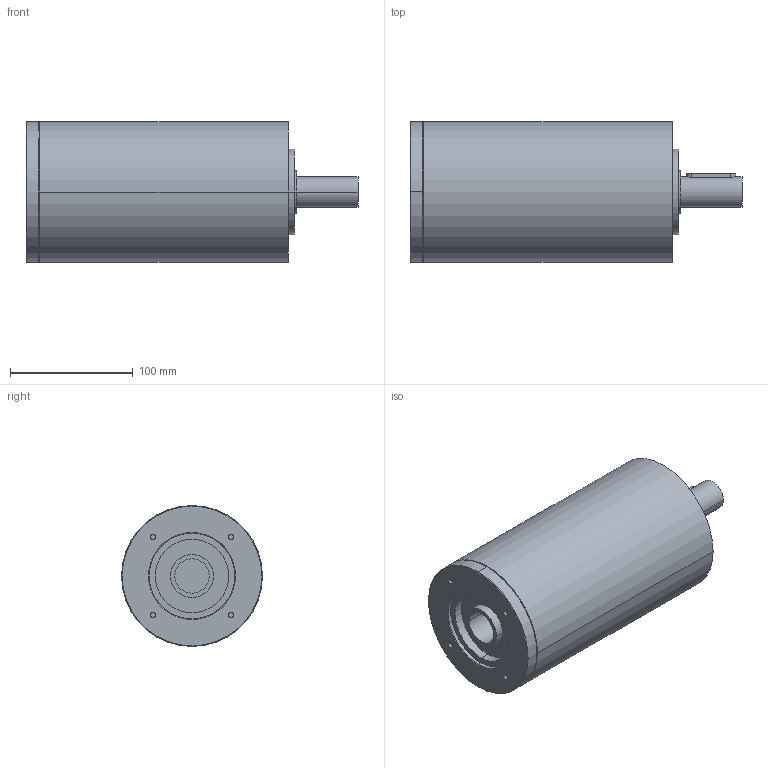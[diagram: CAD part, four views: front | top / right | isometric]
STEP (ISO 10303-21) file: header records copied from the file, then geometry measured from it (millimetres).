
FILE_DESCRIPTION(('CoCreate Modeling STEP Export'),'2;1');
FILE_NAME('GPR125_ig-48-64-80-100-140-196-245-343_25_B14_28_P15.stp','2014-08-26T14:22:55',(''),(''),'CoCreate Modeling STEP processor for AP214 (Solid Model)','CoCreate Modeling 16.00C 25-Feb-2009 (C) Parametric Technology GmbH','');
FILE_SCHEMA(('AUTOMOTIVE_DESIGN { 1 0 10303 214 1 1 1 1 }'));
Length unit declared in the file: millimetre
Products named in the file (2): GPR125_ig-48-64-80-100-140-196-245-343_25_B14_28_P15
Assembly tree (1 placements, depth 2):
  GPR125_ig-48-64-80-100-140-196-245-343_25_B14_28_P15
    GPR125_ig-48-64-80-100-140-196-245-343_25_B14_28_P15
Bounding box: 271 x 115 x 115 mm (x, y, z)
Volume: 2201146.6 mm3; surface area: 114771.7 mm2
Topology: 1 solids, 1 shells, 69 faces, 180 edges, 128 vertices
Faces by surface type: cylinder 38, plane 21, cone 10
Entity records: 1790 total; most frequent: ORIENTED_EDGE 356, CARTESIAN_POINT 336, DIRECTION 226, EDGE_CURVE 178, VERTEX_POINT 128, AXIS2_PLACEMENT_3D 86, EDGE_LOOP 86, FACE_OUTER_BOUND 69
